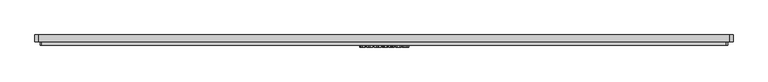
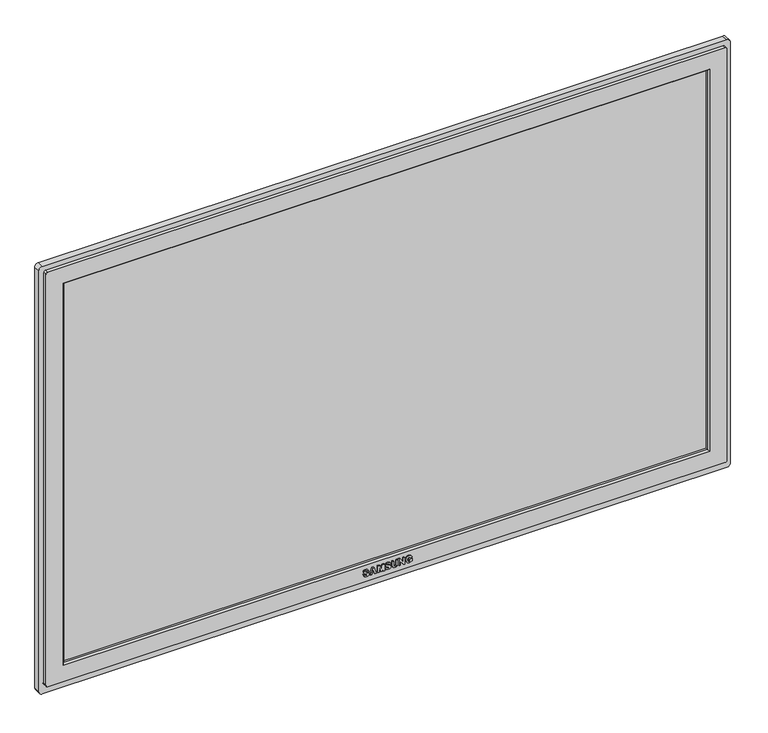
"""IFC4 building model written with IfcOpenShell, lengths in millimetres: proxy geometry, Samsung_C8000_UN55C8000_55_3D_LED_10171 : Samsung_C8000_UN55C8000_55_3D_LED_10171."""

from ifc_helpers import new_model, si_unit, point, frame, frame_2d, origin, place, context, project, spatial, polyline, circle_curve, trimmed, segment, composite_curve, outline, extrude, source, transform, mapped, element, save
from ifc_brep_helpers import plane_surface, cylinder_surface, advanced_brep


def generic_models_dc2893ee(model_context):
    return source(origin(), model_context, "Body", "SolidModel", [
        extrude(outline(polyline([(39.7974772, -24.8932409), (39.7974772, -27.5957706), (27.0974772, -32.1031367), (27.0974772, -29.5612468), (36.5720804, -26.3578986), (27.0974772, -23.1639998), (27.0974772, -20.6126605), (39.7974772, -24.8932409)])), frame((0.0, -22.225, 0.0), z_axis=(0.0, 1.0, 0.0), x_axis=(0.0, 0.0, 1.0)), (0.0, 0.0, 1.0), 3.175),
        advanced_brep(
        [(-631.825, -19.05, 825.5), (-631.825, -19.05, 19.05), (-628.65, -19.05, 15.875), (628.65, -19.05, 15.875), (631.825, -19.05, 19.05), (631.825, -19.05, 825.5), (628.65, -19.05, 828.675), (-628.65, -19.05, 828.675), (-600.075, -19.05, 47.625), (-600.075, -19.05, 796.925), (600.075, -19.05, 796.925), (600.075, -19.05, 47.625), (-631.825, 0.0, 825.5), (-628.65, 0.0, 828.675), (628.65, 0.0, 828.675), (631.825, 0.0, 825.5), (631.825, 0.0, 19.05), (628.65, 0.0, 15.875), (-628.65, 0.0, 15.875), (-631.825, 0.0, 19.05), (596.9, 0.0, 793.75), (-596.9, 0.0, 793.75), (-596.9, 0.0, 50.8), (596.9, 0.0, 50.8), (596.9, -15.875, 50.8), (596.9, -15.875, 793.75), (-596.9, -15.875, 50.8), (-596.9, -15.875, 793.75)],
        [
            (0, 1),
            (1, 2, circle_curve(frame((-628.65, -19.05, 19.05), z_axis=(0.0, -1.0, 0.0), x_axis=(1.0, 0.0, 0.0)), 3.175)),
            (2, 3),
            (3, 4, circle_curve(frame((628.65, -19.05, 19.05), z_axis=(0.0, -1.0, 0.0), x_axis=(1.0, 0.0, 0.0)), 3.175)),
            (4, 5),
            (5, 6, circle_curve(frame((628.65, -19.05, 825.5), z_axis=(0.0, -1.0, 0.0), x_axis=(1.0, 0.0, 0.0)), 3.175)),
            (6, 7),
            (7, 0, circle_curve(frame((-628.65, -19.05, 825.5), z_axis=(0.0, -1.0, 0.0), x_axis=(1.0, 0.0, 0.0)), 3.175)),
            (8, 9),
            (9, 10),
            (10, 11),
            (11, 8),
            (12, 13, circle_curve(frame((-628.65, 0.0, 825.5), z_axis=(0.0, 1.0, 0.0), x_axis=(1.0, 0.0, 0.0)), 3.175)),
            (13, 14),
            (14, 15, circle_curve(frame((628.65, 0.0, 825.5), z_axis=(0.0, 1.0, 0.0), x_axis=(1.0, 0.0, 0.0)), 3.175)),
            (15, 16),
            (16, 17, circle_curve(frame((628.65, 0.0, 19.05), z_axis=(0.0, 1.0, 0.0), x_axis=(1.0, 0.0, 0.0)), 3.175)),
            (17, 18),
            (18, 19, circle_curve(frame((-628.65, 0.0, 19.05), z_axis=(0.0, 1.0, 0.0), x_axis=(1.0, 0.0, 0.0)), 3.175)),
            (19, 12),
            (20, 21),
            (21, 22),
            (22, 23),
            (23, 20),
            (23, 24),
            (24, 25),
            (25, 20),
            (22, 26),
            (26, 24),
            (21, 27),
            (27, 26),
            (25, 27),
            (0, 12),
            (19, 1),
            (18, 2),
            (17, 3),
            (16, 4),
            (15, 5),
            (14, 6),
            (13, 7),
            (27, 9),
            (8, 26),
            (25, 10),
            (24, 11),
        ],
        [
            plane_surface(frame((596.9, -19.05, 793.75), z_axis=(0.0, -1.0, 0.0), x_axis=(0.0, 0.0, -1.0))),
            plane_surface(frame((596.9, 0.0, 793.75), z_axis=(0.0, 1.0, 0.0), x_axis=(0.0, 0.0, 1.0))),
            plane_surface(frame((596.9, -19.05, 793.75), z_axis=(-1.0, 0.0, 0.0), x_axis=(0.0, 1.0, 0.0))),
            plane_surface(frame((596.9, -19.05, 50.8), z_axis=(0.0, 0.0, 1.0), x_axis=(0.0, 1.0, 0.0))),
            plane_surface(frame((-596.9, -19.05, 50.8), z_axis=(1.0, 0.0, 0.0), x_axis=(0.0, 1.0, 0.0))),
            plane_surface(frame((-596.9, -19.05, 793.75), z_axis=(0.0, 0.0, -1.0), x_axis=(0.0, 1.0, 0.0))),
            plane_surface(frame((-631.825, -19.05, 825.5), z_axis=(-1.0, 0.0, 0.0), x_axis=(0.0, 1.0, 0.0))),
            cylinder_surface(frame((-628.65, 0.0, 19.05), z_axis=(0.0, -1.0, 0.0), x_axis=(1.0, 0.0, 0.0)), 3.175),
            plane_surface(frame((-628.65, -19.05, 15.875), z_axis=(0.0, 0.0, -1.0), x_axis=(0.0, 1.0, 0.0))),
            cylinder_surface(frame((628.65, 0.0, 19.05), z_axis=(0.0, -1.0, 0.0), x_axis=(1.0, 0.0, 0.0)), 3.175),
            plane_surface(frame((631.825, -19.05, 19.05), z_axis=(1.0, 0.0, 0.0), x_axis=(0.0, 1.0, 0.0))),
            cylinder_surface(frame((628.65, 0.0, 825.5), z_axis=(0.0, -1.0, 0.0), x_axis=(1.0, 0.0, 0.0)), 3.175),
            plane_surface(frame((628.65, -19.05, 828.675), z_axis=(0.0, 0.0, 1.0), x_axis=(0.0, 1.0, 0.0))),
            cylinder_surface(frame((-628.65, 0.0, 825.5), z_axis=(0.0, -1.0, 0.0), x_axis=(1.0, 0.0, 0.0)), 3.175),
            plane_surface(frame((-600.075, -19.05, 47.625), z_axis=(0.7071067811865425, -0.7071067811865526, 0.0), x_axis=(0.0, 0.0, 1.0))),
            plane_surface(frame((-600.075, -19.05, 796.925), z_axis=(0.0, -0.7071067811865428, -0.7071067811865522), x_axis=(1.0, 0.0, 0.0))),
            plane_surface(frame((600.075, -19.05, 796.925), z_axis=(-0.7071067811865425, -0.7071067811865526, 0.0), x_axis=(0.0, 0.0, -1.0))),
            plane_surface(frame((600.075, -19.05, 47.625), z_axis=(0.0, -0.7071067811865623, 0.7071067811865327), x_axis=(-1.0, 0.0, 0.0))),
        ],
        [
            (0, [[1, 2, 3, 4, 5, 6, 7, 8], [9, 10, 11, 12]]),
            (1, [[13, 14, 15, 16, 17, 18, 19, 20], [21, 22, 23, 24]]),
            (2, [[-24, 25, 26, 27]]),
            (3, [[-23, 28, 29, -25]]),
            (4, [[-22, 30, 31, -28]]),
            (5, [[-21, -27, 32, -30]]),
            (6, [[-1, 33, -20, 34]]),
            (7, [[-2, -34, -19, 35]]),
            (8, [[-3, -35, -18, 36]]),
            (9, [[-4, -36, -17, 37]]),
            (10, [[-5, -37, -16, 38]]),
            (11, [[-6, -38, -15, 39]]),
            (12, [[-7, -39, -14, 40]]),
            (13, [[-8, -40, -13, -33]]),
            (14, [[41, -9, 42, -31]]),
            (15, [[-41, -32, 43, -10]]),
            (16, [[-43, -26, 44, -11]]),
            (17, [[-42, -12, -44, -29]]),
        ],
    ),
        extrude(outline(polyline([(31.3308106, -44.3672601), (28.0282436, -42.8333068), (26.8958899, -39.1480389), (27.3557609, -36.3966872), (28.7605725, -34.6894948), (30.7890447, -34.0863078), (32.7954683, -34.5965756), (34.0758626, -36.0076867), (34.9704063, -38.7905364), (37.3311826, -41.1229645), (37.7816042, -39.3149784), (35.9673185, -36.90853), (35.9673185, -34.4894824), (38.8997838, -35.7541277), (39.9990645, -39.3433266), (39.5580923, -41.8348197), (38.2761231, -43.4160201), (36.4681369, -43.9640855), (33.9199475, -42.7703107), (32.6820754, -39.8157968), (29.6314926, -37.1542145), (29.1133502, -39.0850429), (29.6992133, -41.003272), (31.5323979, -41.9482125), (31.3308106, -44.3672601)])), frame((0.0, -22.225, 0.0), z_axis=(0.0, 1.0, 0.0), x_axis=(0.0, 0.0, 1.0)), (0.0, 0.0, 1.0), 3.175),
        extrude(outline(polyline([(27.0974772, -17.556149), (27.0974772, -15.1371014), (37.0949475, -15.0363078), (27.0974772, -12.8219972), (27.0974772, -9.9903256), (37.0949475, -7.7791649), (27.0974772, -7.6783713), (27.0974772, -5.2593236), (39.7974772, -5.2593236), (39.7974772, -9.4044625), (31.1355229, -11.4077363), (39.7974772, -13.4110101), (39.7974772, -17.556149), (27.0974772, -17.556149)])), frame((0.0, -22.225, 0.0), z_axis=(0.0, 1.0, 0.0), x_axis=(0.0, 0.0, 1.0)), (0.0, 0.0, 1.0), 3.175),
        extrude(outline(polyline([(31.3308106, -3.4450379), (28.0282436, -1.9110845), (26.8958899, 1.7741833), (27.3557609, 4.525535), (28.7605725, 6.2327275), (30.7890447, 6.8359145), (32.7954683, 6.3256466), (34.0758626, 4.9145355), (34.9704063, 2.1316858), (37.3311826, -0.2007423), (37.7816042, 1.6072438), (35.9673185, 4.0136922), (35.9673185, 6.4327399), (38.8997838, 5.1680945), (39.9990645, 1.5788956), (39.5580923, -0.9125974), (38.2761231, -2.4937978), (36.4681369, -3.0418633), (33.9199475, -1.8480885), (32.6820754, 1.1064254), (29.6314926, 3.7680077), (29.1133502, 1.8371793), (29.6992133, -0.0810498), (31.5323979, -1.0259903), (31.3308106, -3.4450379)])), frame((0.0, -22.225, 0.0), z_axis=(0.0, 1.0, 0.0), x_axis=(0.0, 0.0, 1.0)), (0.0, 0.0, 1.0), 3.175),
        extrude(outline(polyline([(39.7974772, 8.8517875), (33.0317034, 8.8517875), (28.4046449, 9.8376754), (27.3148135, 11.3464303), (26.8958899, 14.1466039), (27.2801657, 16.6270727), (28.3148755, 18.1437022), (29.9071002, 18.9217032), (33.1356469, 19.1327399), (39.7974772, 19.1327399), (39.7974772, 16.7136922), (32.7986181, 16.7136922), (29.5574723, 15.8648207), (29.1133502, 14.0710087), (30.8299921, 11.3747786), (32.9466588, 11.2708351), (39.7974772, 11.2708351), (39.7974772, 8.8517875)])), frame((0.0, -22.225, 0.0), z_axis=(0.0, 1.0, 0.0), x_axis=(0.0, 0.0, 1.0)), (0.0, 0.0, 1.0), 3.175),
        extrude(outline(polyline([(27.0974772, 21.5517875), (27.0974772, 23.9708351), (35.5200467, 23.9708351), (27.0974772, 29.2184045), (27.0974772, 31.8327399), (39.7974772, 31.8327399), (39.7974772, 29.4136922), (31.2489157, 29.4136922), (39.7974772, 24.0873778), (39.7974772, 21.5517875), (27.0974772, 21.5517875)])), frame((0.0, -22.225, 0.0), z_axis=(0.0, 1.0, 0.0), x_axis=(0.0, 0.0, 1.0)), (0.0, 0.0, 1.0), 3.175),
        extrude(outline(polyline([(31.7339852, 40.0978192), (30.165384, 43.1216287), (29.4204559, 41.6868941), (29.1133502, 40.022224), (30.2331047, 37.3039452), (33.5923681, 36.2676605), (36.7264207, 37.3102448), (37.7816042, 40.116718), (37.2414132, 42.0601456), (35.7657312, 43.1216287), (36.1689058, 45.5406764), (38.9816786, 43.831909), (39.9990645, 40.1450662), (39.3691042, 37.1086575), (37.0083279, 34.6785856), (33.4915744, 33.8486129), (30.116562, 34.5825166), (27.7305873, 36.7747786), (26.8958899, 40.1923133), (27.4959271, 43.2413212), (28.8865645, 45.5406764), (33.9514455, 45.5406764), (33.9514455, 40.0978192), (31.7339852, 40.0978192)])), frame((0.0, -22.225, 0.0), z_axis=(0.0, 1.0, 0.0), x_axis=(0.0, 0.0, 1.0)), (0.0, 0.0, 1.0), 3.175),
        extrude(outline(composite_curve([segment(trimmed(circle_curve(frame_2d((831.85, -635.0)), 6.35), [point((838.2, -635.0))], [point((831.85, -641.35))], False, "CARTESIAN"), True, "CONTINUOUS"), segment(polyline([(831.85, -641.35), (6.35, -641.35)]), True, "CONTINUOUS"), segment(trimmed(circle_curve(frame_2d((6.35, -635.0)), 6.35), [point((6.35, -641.35))], [point((0.0, -635.0))], False, "CARTESIAN"), True, "CONTINUOUS"), segment(polyline([(0.0, -635.0), (0.0, 635.0)]), True, "CONTINUOUS"), segment(trimmed(circle_curve(frame_2d((6.35, 635.0)), 6.35), [point((0.0, 635.0))], [point((6.35, 641.35))], False, "CARTESIAN"), True, "CONTINUOUS"), segment(polyline([(6.35, 641.35), (831.85, 641.35)]), True, "CONTINUOUS"), segment(trimmed(circle_curve(frame_2d((831.85, 635.0)), 6.35), [point((831.85, 641.35))], [point((838.2, 635.0))], False, "CARTESIAN"), True, "CONTINUOUS"), segment(polyline([(838.2, 635.0), (838.2, -635.0)]), True, "CONTINUOUS")], self_intersect=False), holes=[composite_curve([segment(polyline([(19.05, -631.825), (825.5, -631.825)]), True, "CONTINUOUS"), segment(trimmed(circle_curve(frame_2d((825.5, -628.65)), 3.175), [point((825.5, -631.825))], [point((828.675, -628.65))], True, "CARTESIAN"), True, "CONTINUOUS"), segment(polyline([(828.675, -628.65), (828.675, 628.65)]), True, "CONTINUOUS"), segment(trimmed(circle_curve(frame_2d((825.5, 628.65)), 3.175), [point((828.675, 628.65))], [point((825.5, 631.825))], True, "CARTESIAN"), True, "CONTINUOUS"), segment(polyline([(825.5, 631.825), (19.05, 631.825)]), True, "CONTINUOUS"), segment(trimmed(circle_curve(frame_2d((19.05, 628.65)), 3.175), [point((19.05, 631.825))], [point((15.875, 628.65))], True, "CARTESIAN"), True, "CONTINUOUS"), segment(polyline([(15.875, 628.65), (15.875, -628.65)]), True, "CONTINUOUS"), segment(trimmed(circle_curve(frame_2d((19.05, -628.65)), 3.175), [point((15.875, -628.65))], [point((19.05, -631.825))], True, "CARTESIAN"), True, "CONTINUOUS")], self_intersect=False)]), frame((0.0, -12.7, 0.0), z_axis=(0.0, 1.0, 0.0), x_axis=(0.0, 0.0, 1.0)), (0.0, 0.0, 1.0), 12.7),
        extrude(outline(polyline([(596.9, -12.7), (-596.9, -12.7), (-596.9, 0.0), (596.9, 0.0), (596.9, -12.7)])), frame((0.0, 0.0, 50.8), z_axis=(0.0, 0.0, 1.0), x_axis=(1.0, 0.0, 0.0)), (0.0, 0.0, 1.0), 742.95),
    ])


if __name__ == "__main__":
    model = new_model("IFC4")
    model_context = context("Model", 3, world=origin())
    ifc_project = project(units=[si_unit("LENGTHUNIT", "METRE", prefix="MILLI")], contexts=[model_context])
    site = spatial("IfcSite", under=ifc_project)
    building = spatial("IfcBuilding", under=site)
    placement = place(None, origin())
    generic_models_shape = generic_models_dc2893ee(model_context)
    element("IfcBuildingElementProxy", 1, Name="Samsung_C8000_UN55C8000_55_3D_LED_10171 : Samsung_C8000_UN55C8000_55_3D_LED_10171", ObjectType="Samsung_C8000_UN55C8000_55_3D_LED_10171 : Samsung_C8000_UN55C8000_55_3D_LED_10171", at=placement, inside=building, context=model_context, shape_type="MappedRepresentation", body=[
        mapped(generic_models_shape, transform((0.0, 0.0, 0.0), x_axis=(1.0, 0.0, 0.0), y_axis=(0.0, 1.0, 0.0), z_axis=(0.0, 0.0, 1.0))),
    ])
    save(model, "model.ifc")
